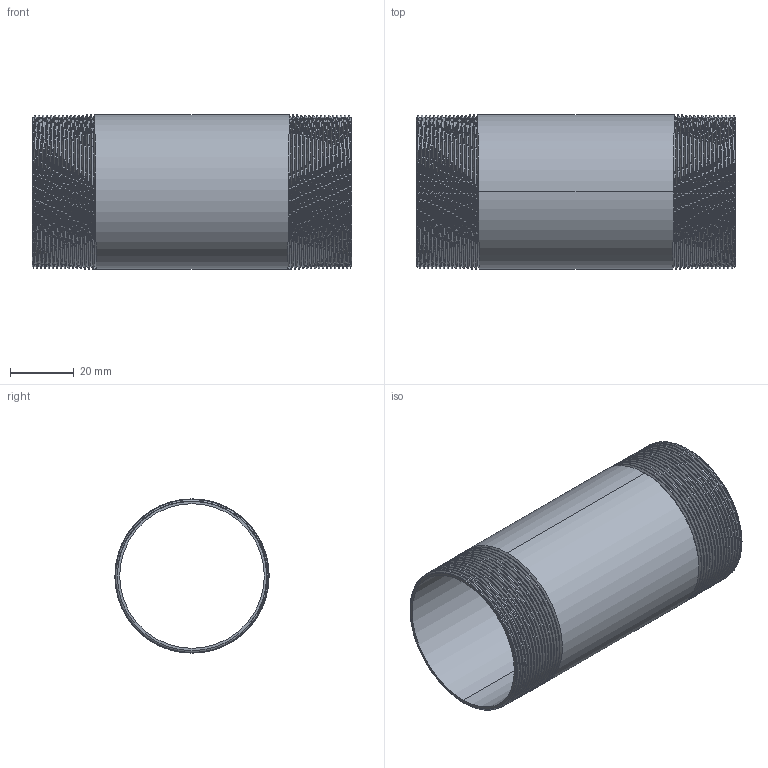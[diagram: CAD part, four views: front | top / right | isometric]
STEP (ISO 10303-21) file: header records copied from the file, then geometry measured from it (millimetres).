
FILE_DESCRIPTION (( 'STEP AP203' ), '1' );
FILE_NAME ('3D_R210_1 1-2x100_17185770.STEP', '2024-08-16T11:34:12', ( '' ), ( '' ), 'SwSTEP 2.0', 'SolidWorks 2024', '' );
FILE_SCHEMA (( 'CONFIG_CONTROL_DESIGN' ));
Length unit declared in the file: millimetre
Products named in the file (1): 3D_R210_1 1-2x100_17185770
Bounding box: 100 x 48.28 x 48.3 mm (x, y, z)
Volume: 19562.1 mm3; surface area: 32719.9 mm2
Topology: 1 solids, 1 shells, 82 faces, 232 edges, 152 vertices
Faces by surface type: cone 68, bspline 6, cylinder 4, plane 4
Entity records: 14349 total; most frequent: CARTESIAN_POINT 12447, ORIENTED_EDGE 464, DIRECTION 256, EDGE_CURVE 232, VERTEX_POINT 152, B_SPLINE_CURVE_WITH_KNOTS 134, AXIS2_PLACEMENT_3D 89, EDGE_LOOP 84
